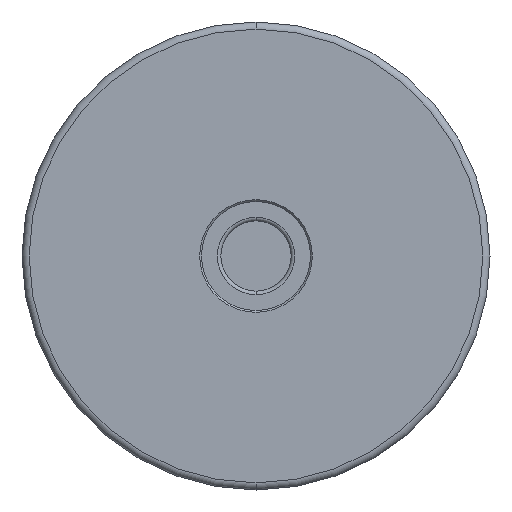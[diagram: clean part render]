
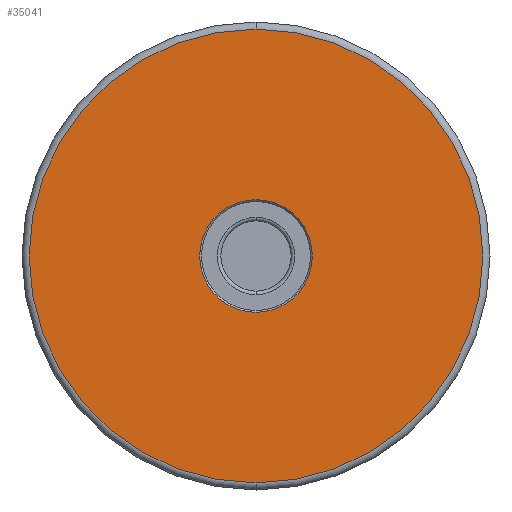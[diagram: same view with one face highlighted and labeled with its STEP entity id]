
A CAD part, front view. The second image highlights one B-rep face of the part: STEP entity #35041.
In plain terms, the highlighted planar face has unit normal (0, -1, 0).
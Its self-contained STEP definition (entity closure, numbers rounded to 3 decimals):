
#328 = EDGE_CURVE ( 'NONE', #6940, #50482, #26478, .T. ) ;
#801 = DIRECTION ( 'NONE',  ( 0., 0., 1. ) ) ;
#2186 = CARTESIAN_POINT ( 'NONE',  ( 40.912, -135.584, 169.825 ) ) ;
#2235 = FACE_OUTER_BOUND ( 'NONE', #7347, .T. ) ;
#2898 = VERTEX_POINT ( 'NONE', #23269 ) ;
#4598 = ORIENTED_EDGE ( 'NONE', *, *, #23924, .T. ) ;
#6471 = PLANE ( 'NONE',  #35185 ) ;
#6940 = VERTEX_POINT ( 'NONE', #41209 ) ;
#7347 = EDGE_LOOP ( 'NONE', ( #25273, #34510 ) ) ;
#9086 = CIRCLE ( 'NONE', #47255, 63. ) ;
#9856 = CIRCLE ( 'NONE', #18120, 15.65 ) ;
#11937 = DIRECTION ( 'NONE',  ( 0., -1., 0. ) ) ;
#13531 = CIRCLE ( 'NONE', #49623, 15.65 ) ;
#16478 = CARTESIAN_POINT ( 'NONE',  ( 25.262, -135.584, 169.825 ) ) ;
#17413 = ORIENTED_EDGE ( 'NONE', *, *, #28682, .T. ) ;
#18120 = AXIS2_PLACEMENT_3D ( 'NONE', #44095, #63808, #58970 ) ;
#20323 = AXIS2_PLACEMENT_3D ( 'NONE', #49831, #44029, #28826 ) ;
#23269 = CARTESIAN_POINT ( 'NONE',  ( 40.912, -135.584, 154.175 ) ) ;
#23924 = EDGE_CURVE ( 'NONE', #57372, #2898, #13531, .T. ) ;
#25273 = ORIENTED_EDGE ( 'NONE', *, *, #30056, .F. ) ;
#26478 = CIRCLE ( 'NONE', #20323, 63. ) ;
#28682 = EDGE_CURVE ( 'NONE', #2898, #57372, #9856, .T. ) ;
#28826 = DIRECTION ( 'NONE',  ( 0., 0., 1. ) ) ;
#30056 = EDGE_CURVE ( 'NONE', #50482, #6940, #9086, .T. ) ;
#30629 = DIRECTION ( 'NONE',  ( 0., 0., -1. ) ) ;
#31041 = EDGE_LOOP ( 'NONE', ( #17413, #4598 ) ) ;
#34405 = CARTESIAN_POINT ( 'NONE',  ( 40.912, -135.584, 232.825 ) ) ;
#34510 = ORIENTED_EDGE ( 'NONE', *, *, #328, .F. ) ;
#35041 = ADVANCED_FACE ( 'NONE', ( #53658, #2235 ), #6471, .T. ) ;
#35185 = AXIS2_PLACEMENT_3D ( 'NONE', #16478, #11937, #30629 ) ;
#35993 = DIRECTION ( 'NONE',  ( 0., 1., 0. ) ) ;
#41209 = CARTESIAN_POINT ( 'NONE',  ( 40.912, -135.584, 106.825 ) ) ;
#44029 = DIRECTION ( 'NONE',  ( 0., 1., 0. ) ) ;
#44095 = CARTESIAN_POINT ( 'NONE',  ( 40.912, -135.584, 169.825 ) ) ;
#47255 = AXIS2_PLACEMENT_3D ( 'NONE', #2186, #56455, #55167 ) ;
#49590 = CARTESIAN_POINT ( 'NONE',  ( 40.912, -135.584, 169.825 ) ) ;
#49623 = AXIS2_PLACEMENT_3D ( 'NONE', #49590, #35993, #801 ) ;
#49831 = CARTESIAN_POINT ( 'NONE',  ( 40.912, -135.584, 169.825 ) ) ;
#50482 = VERTEX_POINT ( 'NONE', #34405 ) ;
#53658 = FACE_BOUND ( 'NONE', #31041, .T. ) ;
#54955 = CARTESIAN_POINT ( 'NONE',  ( 40.912, -135.584, 185.475 ) ) ;
#55167 = DIRECTION ( 'NONE',  ( 0., 0., 1. ) ) ;
#56455 = DIRECTION ( 'NONE',  ( 0., 1., 0. ) ) ;
#57372 = VERTEX_POINT ( 'NONE', #54955 ) ;
#58970 = DIRECTION ( 'NONE',  ( 0., 0., 1. ) ) ;
#63808 = DIRECTION ( 'NONE',  ( 0., 1., 0. ) ) ;
